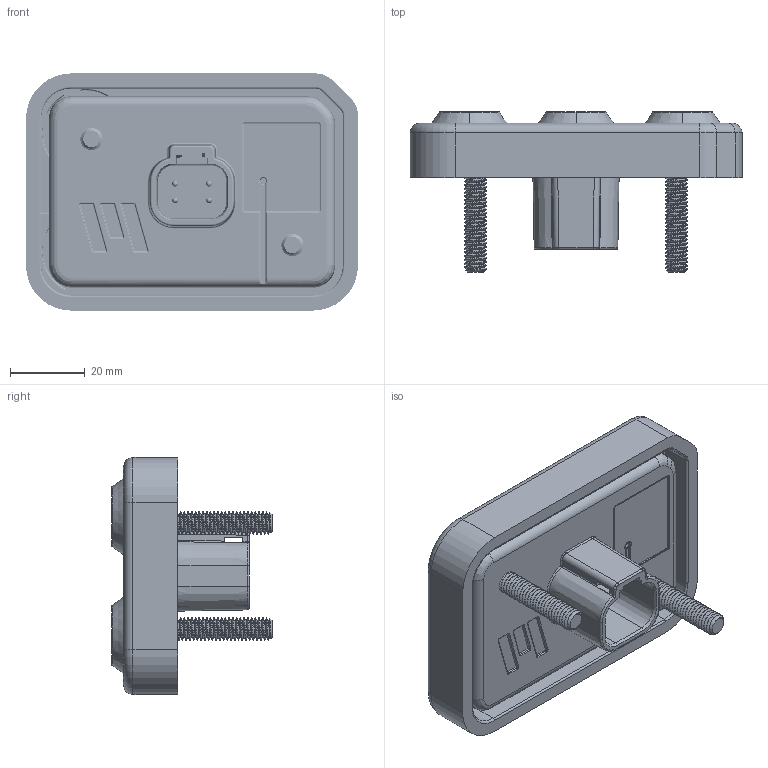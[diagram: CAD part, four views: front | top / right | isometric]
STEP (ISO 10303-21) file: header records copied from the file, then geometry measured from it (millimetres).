
FILE_DESCRIPTION (( 'STEP AP214' ), '1' );
FILE_NAME ('505210.STEP', '2025-06-12T18:22:40', ( '' ), ( '' ), 'SwSTEP 2.0', 'SolidWorks 2024', '' );
FILE_SCHEMA (( 'AUTOMOTIVE_DESIGN' ));
Length unit declared in the file: millimetre
Products named in the file (9): 17171DA.STEP; 505210 Full Assembly.STEP; Molded_Connector_Pin.STEP; 17169DA.STEP; 17170DA.STEP; LightWall_6.STEP; 505210; 93580A728_Press-Fit Studs_30mm_93580A728.STEP; Round Icon
Assembly tree (19 placements, depth 3):
  505210
    505210 Full Assembly.STEP
      17169DA.STEP  x2
      LightWall_6.STEP  x2
      17170DA.STEP
      Molded_Connector_Pin.STEP  x4
      93580A728_Press-Fit Studs_30mm_93580A728.STEP  x2
      17171DA.STEP
    Round Icon  x6
Bounding box: 88.9 x 43.02 x 63.5 mm (x, y, z)
Volume: 77295.8 mm3; surface area: 82332.8 mm2
Topology: 18 solids, 18 shells, 4654 faces, 11241 edges, 6312 vertices
Faces by surface type: cylinder 1598, torus 1067, plane 1035, sphere 376, bspline 332, cone 246
Entity records: 109406 total; most frequent: CARTESIAN_POINT 26810, DIRECTION 13298, ORIENTED_EDGE 12356, EDGE_CURVE 6178, AXIS2_PLACEMENT_3D 5434, VERTEX_POINT 3625, CIRCLE 3035, EDGE_LOOP 2721
